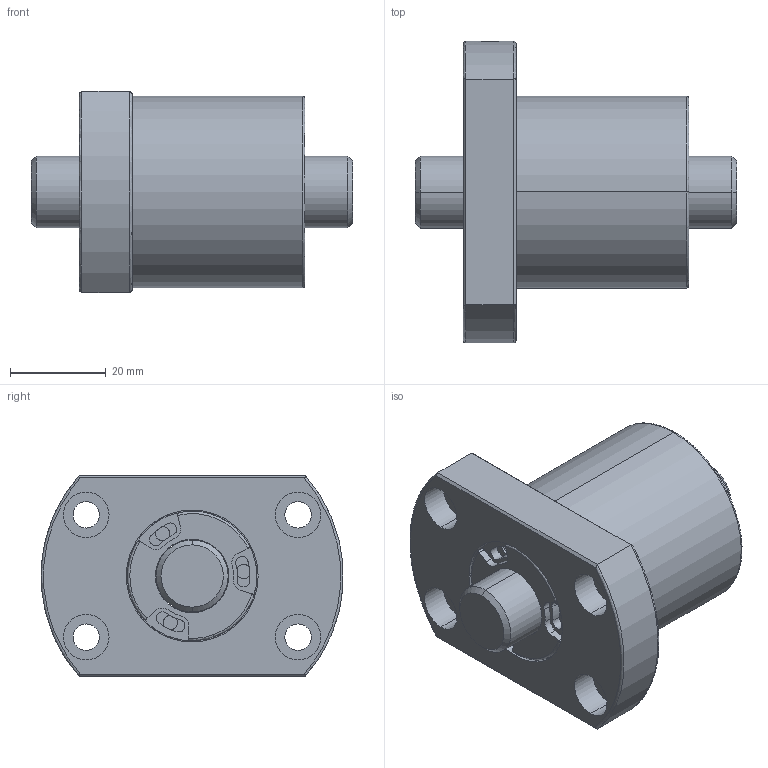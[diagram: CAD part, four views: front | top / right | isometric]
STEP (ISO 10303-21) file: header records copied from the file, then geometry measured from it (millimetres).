
FILE_DESCRIPTION (( 'STEP AP203' ), '1' );
FILE_NAME ('SFVSR01510B1D-C.STEP', '2020-06-17T03:59:30', ( '' ), ( '' ), 'SwSTEP 2.0', 'SolidWorks 2013', '' );
FILE_SCHEMA (( 'CONFIG_CONTROL_DESIGN' ));
Length unit declared in the file: millimetre
Products named in the file (1): SFVSR01510B1D-C
Bounding box: 67 x 62.94 x 42 mm (x, y, z)
Volume: 70397.6 mm3; surface area: 20035.3 mm2
Topology: 2 solids, 2 shells, 248 faces, 610 edges, 390 vertices
Faces by surface type: cylinder 138, plane 80, cone 16, bspline 14
Entity records: 8257 total; most frequent: CARTESIAN_POINT 2117, DIRECTION 1386, ORIENTED_EDGE 1220, EDGE_CURVE 610, AXIS2_PLACEMENT_3D 587, VERTEX_POINT 390, CIRCLE 352, EDGE_LOOP 286
